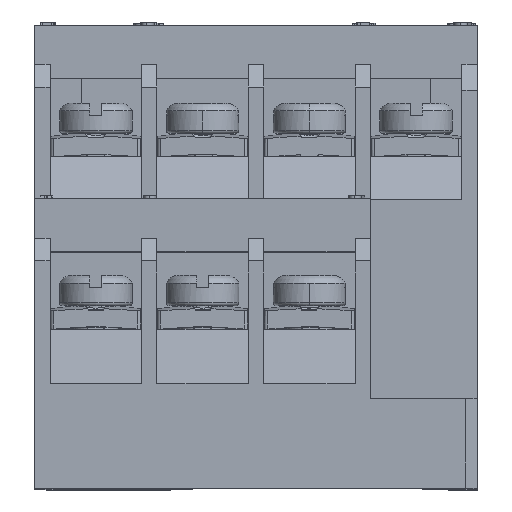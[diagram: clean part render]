
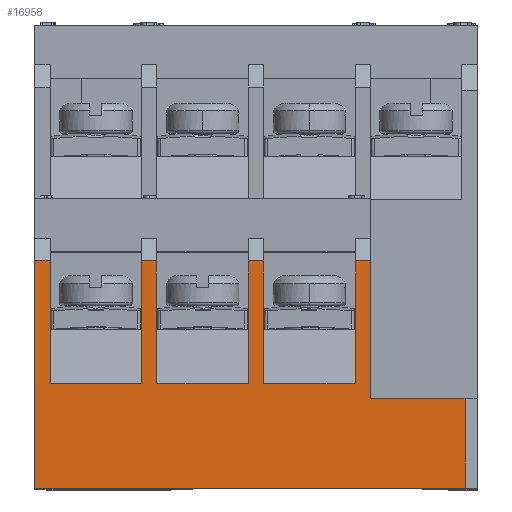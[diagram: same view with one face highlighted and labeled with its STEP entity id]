
A CAD part, top view. The second image highlights one B-rep face of the part: STEP entity #16958.
In plain terms, the highlighted planar face has unit normal (0, 0, 1).
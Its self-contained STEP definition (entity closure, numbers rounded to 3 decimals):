
#76 = DIRECTION ( 'NONE',  ( 0., 1., 0. ) ) ;
#250 = CARTESIAN_POINT ( 'NONE',  ( -0.636, -8.366, 0. ) ) ;
#1316 = DIRECTION ( 'NONE',  ( 0., -1., 0. ) ) ;
#1320 = CARTESIAN_POINT ( 'NONE',  ( 5.414, -8.366, 0. ) ) ;
#1325 = CARTESIAN_POINT ( 'NONE',  ( 20.514, -9.366, 0. ) ) ;
#1963 = LINE ( 'NONE', #85950, #91883 ) ;
#2242 = CARTESIAN_POINT ( 'NONE',  ( 13.464, -9.366, 0. ) ) ;
#3365 = VERTEX_POINT ( 'NONE', #73688 ) ;
#3436 = DIRECTION ( 'NONE',  ( -1., 0., 0. ) ) ;
#3721 = EDGE_CURVE ( 'NONE', #93686, #81723, #33708, .T. ) ;
#3808 = CARTESIAN_POINT ( 'NONE',  ( -0.636, -0.266, 0. ) ) ;
#4044 = EDGE_CURVE ( 'NONE', #108230, #93686, #40543, .T. ) ;
#4874 = EDGE_CURVE ( 'NONE', #104156, #64109, #44441, .T. ) ;
#6978 = VERTEX_POINT ( 'NONE', #33882 ) ;
#7442 = EDGE_CURVE ( 'NONE', #84033, #103156, #1963, .T. ) ;
#7923 = LINE ( 'NONE', #89046, #56919 ) ;
#9303 = CARTESIAN_POINT ( 'NONE',  ( -7.686, -0.266, 0. ) ) ;
#9553 = VECTOR ( 'NONE', #43043, 1000. ) ;
#9636 = LINE ( 'NONE', #79422, #50440 ) ;
#10204 = VERTEX_POINT ( 'NONE', #250 ) ;
#10297 = EDGE_CURVE ( 'NONE', #10204, #91530, #9636, .T. ) ;
#10727 = VERTEX_POINT ( 'NONE', #45037 ) ;
#11003 = DIRECTION ( 'NONE',  ( 0., 1., 0. ) ) ;
#11079 = LINE ( 'NONE', #1325, #101013 ) ;
#12205 = CARTESIAN_POINT ( 'NONE',  ( 20.514, -0.266, 0. ) ) ;
#12280 = LINE ( 'NONE', #89194, #73523 ) ;
#12311 = LINE ( 'NONE', #103960, #9553 ) ;
#13189 = ORIENTED_EDGE ( 'NONE', *, *, #4874, .T. ) ;
#15698 = EDGE_CURVE ( 'NONE', #10727, #3365, #42685, .T. ) ;
#16818 = ORIENTED_EDGE ( 'NONE', *, *, #30335, .F. ) ;
#16958 = ADVANCED_FACE ( 'NONE', ( #91543 ), #55911, .F. ) ;
#18087 = VECTOR ( 'NONE', #35577, 1000. ) ;
#18175 = LINE ( 'NONE', #71703, #41301 ) ;
#18545 = DIRECTION ( 'NONE',  ( 1., 0., 0. ) ) ;
#19568 = VECTOR ( 'NONE', #68417, 1000. ) ;
#21337 = DIRECTION ( 'NONE',  ( 0., -1., 0. ) ) ;
#25098 = ORIENTED_EDGE ( 'NONE', *, *, #3721, .F. ) ;
#25231 = CARTESIAN_POINT ( 'NONE',  ( 12.544, -8.366, 0. ) ) ;
#25589 = EDGE_CURVE ( 'NONE', #104156, #103156, #7923, .T. ) ;
#26631 = ORIENTED_EDGE ( 'NONE', *, *, #10297, .F. ) ;
#27004 = DIRECTION ( 'NONE',  ( 0., 1., 0. ) ) ;
#27693 = VECTOR ( 'NONE', #56932, 1000. ) ;
#29707 = ORIENTED_EDGE ( 'NONE', *, *, #25589, .F. ) ;
#30335 = EDGE_CURVE ( 'NONE', #77250, #108230, #98405, .T. ) ;
#33708 = LINE ( 'NONE', #72724, #80049 ) ;
#33764 = LINE ( 'NONE', #1320, #56895 ) ;
#33787 = DIRECTION ( 'NONE',  ( 0., -1., 0. ) ) ;
#33882 = CARTESIAN_POINT ( 'NONE',  ( 5.414, -0.266, 0. ) ) ;
#35148 = LINE ( 'NONE', #97611, #101907 ) ;
#35577 = DIRECTION ( 'NONE',  ( 0., -1., 0. ) ) ;
#37870 = ORIENTED_EDGE ( 'NONE', *, *, #4044, .F. ) ;
#37883 = CARTESIAN_POINT ( 'NONE',  ( 19.764, -15.266, 0. ) ) ;
#38213 = CARTESIAN_POINT ( 'NONE',  ( 12.464, -8.366, 0. ) ) ;
#38964 = EDGE_CURVE ( 'NONE', #77250, #6978, #92789, .T. ) ;
#39671 = EDGE_CURVE ( 'NONE', #76615, #81723, #12311, .T. ) ;
#40338 = LINE ( 'NONE', #2242, #83896 ) ;
#40543 = LINE ( 'NONE', #25231, #58148 ) ;
#41301 = VECTOR ( 'NONE', #81624, 1000. ) ;
#42685 = LINE ( 'NONE', #94712, #19568 ) ;
#43043 = DIRECTION ( 'NONE',  ( -1., 0., 0. ) ) ;
#44441 = LINE ( 'NONE', #96642, #108471 ) ;
#45037 = CARTESIAN_POINT ( 'NONE',  ( -7.686, -8.366, 0. ) ) ;
#45306 = VERTEX_POINT ( 'NONE', #45704 ) ;
#45307 = ORIENTED_EDGE ( 'NONE', *, *, #74084, .T. ) ;
#45658 = DIRECTION ( 'NONE',  ( -1., 0., 0. ) ) ;
#45704 = CARTESIAN_POINT ( 'NONE',  ( -1.636, -0.266, 0. ) ) ;
#50440 = VECTOR ( 'NONE', #18545, 1000. ) ;
#50767 = LINE ( 'NONE', #100427, #27693 ) ;
#53162 = CARTESIAN_POINT ( 'NONE',  ( 6.414, -8.366, 0. ) ) ;
#54217 = ORIENTED_EDGE ( 'NONE', *, *, #61884, .T. ) ;
#55911 = PLANE ( 'NONE',  #76969 ) ;
#56895 = VECTOR ( 'NONE', #79751, 1000. ) ;
#56919 = VECTOR ( 'NONE', #45658, 1000. ) ;
#56932 = DIRECTION ( 'NONE',  ( -1., 0., 0. ) ) ;
#58148 = VECTOR ( 'NONE', #112623, 1000. ) ;
#60768 = VERTEX_POINT ( 'NONE', #3808 ) ;
#61587 = ORIENTED_EDGE ( 'NONE', *, *, #7442, .T. ) ;
#61884 = EDGE_CURVE ( 'NONE', #60768, #45306, #35148, .T. ) ;
#62716 = CARTESIAN_POINT ( 'NONE',  ( 19.764, -9.366, 0. ) ) ;
#62760 = CARTESIAN_POINT ( 'NONE',  ( -8.686, -0.266, 0. ) ) ;
#63569 = VERTEX_POINT ( 'NONE', #104406 ) ;
#64109 = VERTEX_POINT ( 'NONE', #62716 ) ;
#64707 = CARTESIAN_POINT ( 'NONE',  ( 20.514, -15.266, 0. ) ) ;
#67156 = ORIENTED_EDGE ( 'NONE', *, *, #110201, .F. ) ;
#68417 = DIRECTION ( 'NONE',  ( 1., 0., 0. ) ) ;
#71703 = CARTESIAN_POINT ( 'NONE',  ( -1.636, -3.463, 0. ) ) ;
#72724 = CARTESIAN_POINT ( 'NONE',  ( 12.464, -3.463, 0. ) ) ;
#73523 = VECTOR ( 'NONE', #107469, 1000. ) ;
#73688 = CARTESIAN_POINT ( 'NONE',  ( -1.636, -8.366, 0. ) ) ;
#74084 = EDGE_CURVE ( 'NONE', #63569, #76615, #40338, .T. ) ;
#74882 = VERTEX_POINT ( 'NONE', #107136 ) ;
#75154 = VECTOR ( 'NONE', #1316, 1000. ) ;
#75406 = ORIENTED_EDGE ( 'NONE', *, *, #38964, .T. ) ;
#75860 = ORIENTED_EDGE ( 'NONE', *, *, #98991, .F. ) ;
#76615 = VERTEX_POINT ( 'NONE', #99422 ) ;
#76969 = AXIS2_PLACEMENT_3D ( 'NONE', #64707, #108132, #21337 ) ;
#77134 = EDGE_CURVE ( 'NONE', #74882, #84033, #50767, .T. ) ;
#77250 = VERTEX_POINT ( 'NONE', #93482 ) ;
#79422 = CARTESIAN_POINT ( 'NONE',  ( 5.474, -8.366, 0. ) ) ;
#79751 = DIRECTION ( 'NONE',  ( 0., 1., 0. ) ) ;
#79758 = DIRECTION ( 'NONE',  ( 1., 0., 0. ) ) ;
#80049 = VECTOR ( 'NONE', #76, 1000. ) ;
#81624 = DIRECTION ( 'NONE',  ( 0., 1., 0. ) ) ;
#81723 = VERTEX_POINT ( 'NONE', #100140 ) ;
#83896 = VECTOR ( 'NONE', #11003, 1000. ) ;
#84033 = VERTEX_POINT ( 'NONE', #62760 ) ;
#85950 = CARTESIAN_POINT ( 'NONE',  ( -8.686, -15.266, 0. ) ) ;
#86355 = EDGE_CURVE ( 'NONE', #63569, #64109, #11079, .T. ) ;
#87505 = LINE ( 'NONE', #9303, #18087 ) ;
#88753 = ORIENTED_EDGE ( 'NONE', *, *, #104943, .T. ) ;
#89046 = CARTESIAN_POINT ( 'NONE',  ( 20.514, -15.266, 0. ) ) ;
#89194 = CARTESIAN_POINT ( 'NONE',  ( -0.636, -15.266, 0. ) ) ;
#90288 = CARTESIAN_POINT ( 'NONE',  ( 5.414, -8.366, 0. ) ) ;
#91530 = VERTEX_POINT ( 'NONE', #90288 ) ;
#91543 = FACE_OUTER_BOUND ( 'NONE', #99542, .T. ) ;
#91883 = VECTOR ( 'NONE', #33787, 1000. ) ;
#92770 = ORIENTED_EDGE ( 'NONE', *, *, #86355, .F. ) ;
#92789 = LINE ( 'NONE', #12205, #110485 ) ;
#93482 = CARTESIAN_POINT ( 'NONE',  ( 6.414, -0.266, 0. ) ) ;
#93686 = VERTEX_POINT ( 'NONE', #38213 ) ;
#94712 = CARTESIAN_POINT ( 'NONE',  ( -1.611, -8.366, 0. ) ) ;
#96642 = CARTESIAN_POINT ( 'NONE',  ( 19.764, -9.366, 0. ) ) ;
#96757 = CARTESIAN_POINT ( 'NONE',  ( -8.686, -15.266, 0. ) ) ;
#96783 = ORIENTED_EDGE ( 'NONE', *, *, #77134, .T. ) ;
#96891 = CARTESIAN_POINT ( 'NONE',  ( 6.414, -0.266, 0. ) ) ;
#97611 = CARTESIAN_POINT ( 'NONE',  ( 20.514, -0.266, 0. ) ) ;
#98405 = LINE ( 'NONE', #96891, #75154 ) ;
#98991 = EDGE_CURVE ( 'NONE', #3365, #45306, #18175, .T. ) ;
#99422 = CARTESIAN_POINT ( 'NONE',  ( 13.464, -0.266, 0. ) ) ;
#99542 = EDGE_LOOP ( 'NONE', ( #37870, #16818, #75406, #106513, #26631, #88753, #54217, #75860, #106141, #67156, #96783, #61587, #29707, #13189, #92770, #45307, #104981, #25098 ) ) ;
#100140 = CARTESIAN_POINT ( 'NONE',  ( 12.464, -0.266, 0. ) ) ;
#100427 = CARTESIAN_POINT ( 'NONE',  ( 20.514, -0.266, 0. ) ) ;
#101013 = VECTOR ( 'NONE', #79758, 1000. ) ;
#101907 = VECTOR ( 'NONE', #106355, 1000. ) ;
#102679 = EDGE_CURVE ( 'NONE', #91530, #6978, #33764, .T. ) ;
#103156 = VERTEX_POINT ( 'NONE', #96757 ) ;
#103960 = CARTESIAN_POINT ( 'NONE',  ( 20.514, -0.266, 0. ) ) ;
#104156 = VERTEX_POINT ( 'NONE', #37883 ) ;
#104406 = CARTESIAN_POINT ( 'NONE',  ( 13.464, -9.366, 0. ) ) ;
#104943 = EDGE_CURVE ( 'NONE', #10204, #60768, #12280, .T. ) ;
#104981 = ORIENTED_EDGE ( 'NONE', *, *, #39671, .T. ) ;
#106141 = ORIENTED_EDGE ( 'NONE', *, *, #15698, .F. ) ;
#106355 = DIRECTION ( 'NONE',  ( -1., 0., 0. ) ) ;
#106513 = ORIENTED_EDGE ( 'NONE', *, *, #102679, .F. ) ;
#107136 = CARTESIAN_POINT ( 'NONE',  ( -7.686, -0.266, 0. ) ) ;
#107469 = DIRECTION ( 'NONE',  ( 0., 1., 0. ) ) ;
#108132 = DIRECTION ( 'NONE',  ( 0., 0., -1. ) ) ;
#108230 = VERTEX_POINT ( 'NONE', #53162 ) ;
#108471 = VECTOR ( 'NONE', #27004, 1000. ) ;
#110201 = EDGE_CURVE ( 'NONE', #74882, #10727, #87505, .T. ) ;
#110485 = VECTOR ( 'NONE', #3436, 1000. ) ;
#112623 = DIRECTION ( 'NONE',  ( 1., 0., 0. ) ) ;
